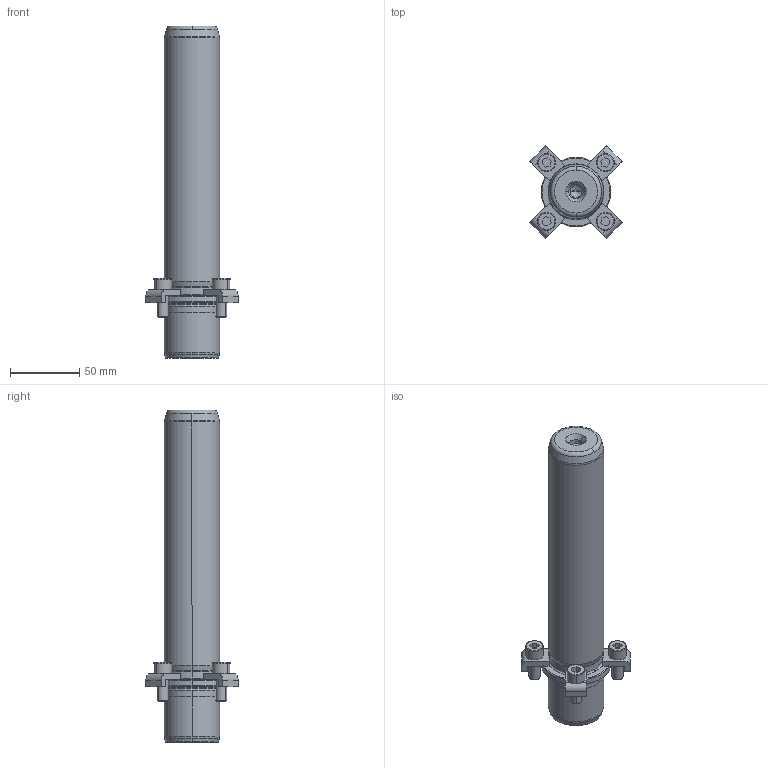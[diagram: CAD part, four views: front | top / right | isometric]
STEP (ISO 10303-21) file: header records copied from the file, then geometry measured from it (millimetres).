
FILE_DESCRIPTION((''),'2;1');
FILE_NAME('P21_040_200.stp','2008-12-23T11:26:23',(''),(''),'Mechanical Desktop 2009','Mechanical Desktop 2009',', , ');
FILE_SCHEMA(('CONFIG_CONTROL_DESIGN'));
Length unit declared in the file: millimetre
Products named in the file (2): Product; blmdl1
Assembly tree (1 placements, depth 2):
  Product
    blmdl1
Bounding box: 66.82 x 66.82 x 240 mm (x, y, z)
Volume: 311725.5 mm3; surface area: 44426.5 mm2
Topology: 9 solids, 9 shells, 203 faces, 501 edges, 325 vertices
Faces by surface type: plane 81, cylinder 56, cone 34, torus 16, bspline 16
Entity records: 6819 total; most frequent: CARTESIAN_POINT 1731, DIRECTION 1126, ORIENTED_EDGE 994, EDGE_CURVE 497, AXIS2_PLACEMENT_3D 440, VERTEX_POINT 325, CIRCLE 251, VECTOR 246
